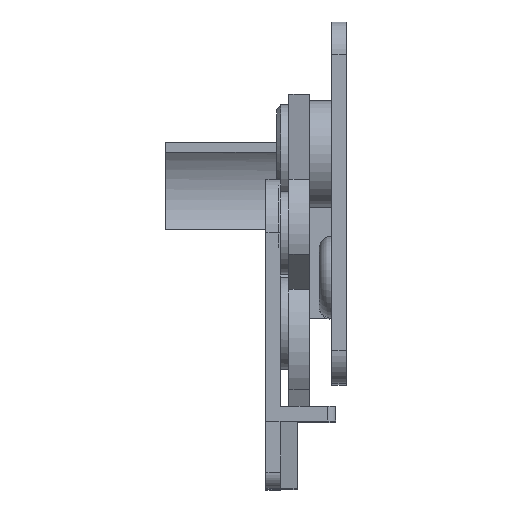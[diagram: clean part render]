
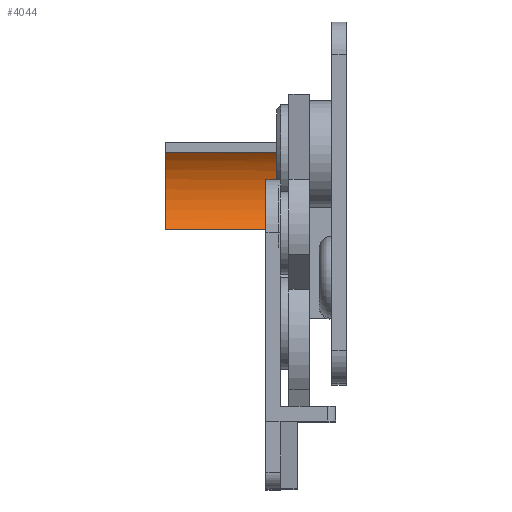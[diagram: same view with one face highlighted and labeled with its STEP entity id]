
A CAD part, top view. The second image highlights one B-rep face of the part: STEP entity #4044.
In plain terms, the highlighted cylindrical face has radius 8 mm (diameter 16 mm), a partial arc.
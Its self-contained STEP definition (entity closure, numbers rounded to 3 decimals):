
#26 = CIRCLE ( 'NONE', #33, 8. ) ;
#28 = VECTOR ( 'NONE', #1951, 1000. ) ;
#29 = VECTOR ( 'NONE', #1948, 1000. ) ;
#33 = AXIS2_PLACEMENT_3D ( 'NONE', #1952, #1953, #1954 ) ;
#34 = VECTOR ( 'NONE', #1955, 1000. ) ;
#1147 = DIRECTION ( 'NONE',  ( 1., 0., 0. ) ) ;
#1150 = FACE_OUTER_BOUND ( 'NONE', #2898, .T. ) ;
#1151 = CARTESIAN_POINT ( 'NONE',  ( -22., -11.972, -93.23 ) ) ;
#1152 = CYLINDRICAL_SURFACE ( 'NONE', #4100, 8. ) ;
#1153 = DIRECTION ( 'NONE',  ( 0., -1., 0. ) ) ;
#1849 = CARTESIAN_POINT ( 'NONE',  ( -1.8, -11.972, -93.23 ) ) ;
#1850 = DIRECTION ( 'NONE',  ( -1., 0., 0. ) ) ;
#1851 = DIRECTION ( 'NONE',  ( 0., 1., 0. ) ) ;
#1943 = LINE ( 'NONE', #1946, #29 ) ;
#1944 = LINE ( 'NONE', #1949, #28 ) ;
#1946 = CARTESIAN_POINT ( 'NONE',  ( -22., -7.873, -100.1 ) ) ;
#1947 = CARTESIAN_POINT ( 'NONE',  ( -22., -16., -100.142 ) ) ;
#1948 = DIRECTION ( 'NONE',  ( -1., 0., 0. ) ) ;
#1949 = CARTESIAN_POINT ( 'NONE',  ( -22., -6.647, -99.2 ) ) ;
#1950 = LINE ( 'NONE', #1947, #34 ) ;
#1951 = DIRECTION ( 'NONE',  ( 1., 0., 0. ) ) ;
#1952 = CARTESIAN_POINT ( 'NONE',  ( -22., -11.972, -93.23 ) ) ;
#1953 = DIRECTION ( 'NONE',  ( -1., 0., 0. ) ) ;
#1954 = DIRECTION ( 'NONE',  ( 0., 1., 0. ) ) ;
#1955 = DIRECTION ( 'NONE',  ( 1., 0., 0. ) ) ;
#2056 = CARTESIAN_POINT ( 'NONE',  ( -4.5, -11.972, -93.23 ) ) ;
#2057 = DIRECTION ( 'NONE',  ( -1., 0., 0. ) ) ;
#2058 = DIRECTION ( 'NONE',  ( 0., 1., 0. ) ) ;
#2239 = CIRCLE ( 'NONE', #2254, 8. ) ;
#2254 = AXIS2_PLACEMENT_3D ( 'NONE', #2056, #2057, #2058 ) ;
#2318 = CARTESIAN_POINT ( 'NONE',  ( -1.8, -16., -100.142 ) ) ;
#2328 = CARTESIAN_POINT ( 'NONE',  ( -4.5, -7.873, -100.1 ) ) ;
#2340 = CARTESIAN_POINT ( 'NONE',  ( -1.8, -7.873, -100.1 ) ) ;
#2359 = CARTESIAN_POINT ( 'NONE',  ( -4.5, -6.647, -99.2 ) ) ;
#2370 = CARTESIAN_POINT ( 'NONE',  ( -22., -16., -100.142 ) ) ;
#2435 = CARTESIAN_POINT ( 'NONE',  ( -22., -6.647, -99.2 ) ) ;
#2664 = ORIENTED_EDGE ( 'NONE', *, *, #4004, .F. ) ;
#2665 = ORIENTED_EDGE ( 'NONE', *, *, #3889, .T. ) ;
#2666 = ORIENTED_EDGE ( 'NONE', *, *, #3888, .T. ) ;
#2667 = ORIENTED_EDGE ( 'NONE', *, *, #3887, .F. ) ;
#2668 = ORIENTED_EDGE ( 'NONE', *, *, #3916, .F. ) ;
#2669 = ORIENTED_EDGE ( 'NONE', *, *, #3886, .T. ) ;
#2898 = EDGE_LOOP ( 'NONE', ( #2669, #2668, #2667, #2666, #2665, #2664 ) ) ;
#3364 = VERTEX_POINT ( 'NONE', #2318 ) ;
#3374 = VERTEX_POINT ( 'NONE', #2328 ) ;
#3386 = VERTEX_POINT ( 'NONE', #2340 ) ;
#3405 = VERTEX_POINT ( 'NONE', #2359 ) ;
#3416 = VERTEX_POINT ( 'NONE', #2370 ) ;
#3481 = VERTEX_POINT ( 'NONE', #2435 ) ;
#3886 = EDGE_CURVE ( 'NONE', #3386, #3374, #1943, .T. ) ;
#3887 = EDGE_CURVE ( 'NONE', #3481, #3405, #1944, .T. ) ;
#3888 = EDGE_CURVE ( 'NONE', #3481, #3416, #26, .T. ) ;
#3889 = EDGE_CURVE ( 'NONE', #3416, #3364, #1950, .T. ) ;
#3916 = EDGE_CURVE ( 'NONE', #3405, #3374, #2239, .T. ) ;
#4004 = EDGE_CURVE ( 'NONE', #3386, #3364, #5100, .T. ) ;
#4044 = ADVANCED_FACE ( 'NONE', ( #1150 ), #1152, .F. ) ;
#4100 = AXIS2_PLACEMENT_3D ( 'NONE', #1151, #1147, #1153 ) ;
#5100 = CIRCLE ( 'NONE', #5115, 8. ) ;
#5115 = AXIS2_PLACEMENT_3D ( 'NONE', #1849, #1850, #1851 ) ;
